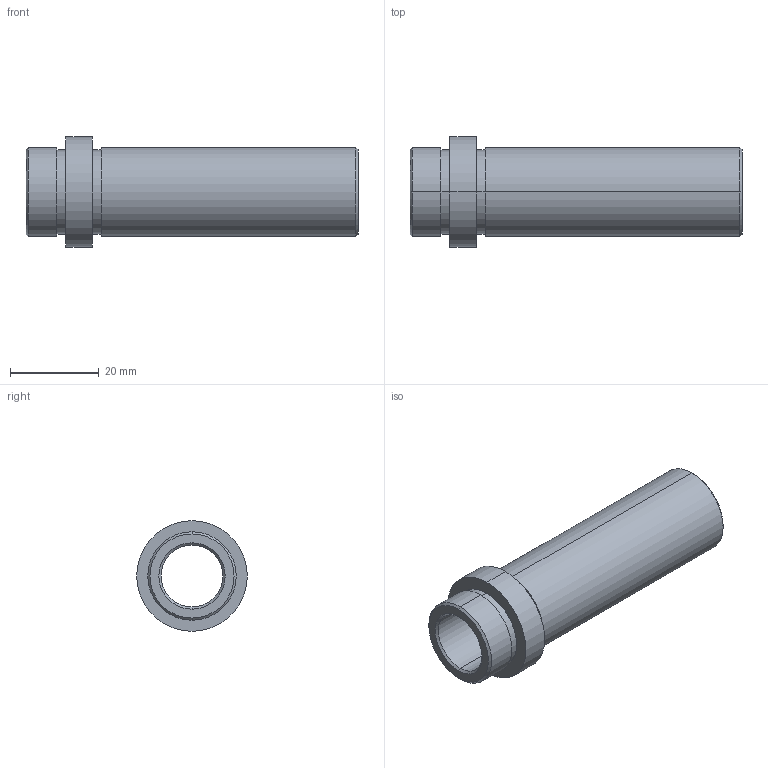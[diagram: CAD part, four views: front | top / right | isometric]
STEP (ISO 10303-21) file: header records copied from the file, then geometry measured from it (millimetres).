
FILE_DESCRIPTION( ( 'STEP AP203' ), '1' );
FILE_NAME( 'D:/Delta 3 D/D21/D21 - 14x66.step', '2002-12-31T22:26:02', ( ' ' ), ( ' ' ), 'XStep 1.0', ' ', ' ' );
FILE_SCHEMA( ( 'CONFIG_CONTROL_DESIGN' ) );
Length unit declared in the file: metre
Products named in the file (1): 1
Bounding box: 75 x 25 x 25 mm (x, y, z)
Volume: 12927.7 mm3; surface area: 8826.6 mm2
Topology: 1 solids, 1 shells, 26 faces, 52 edges, 32 vertices
Faces by surface type: revolution 20, bspline 6
Entity records: 773 total; most frequent: CARTESIAN_POINT 169, DIRECTION 106, ORIENTED_EDGE 104, EDGE_CURVE 52, AXIS2_PLACEMENT_3D 33, EDGE_LOOP 32, VERTEX_POINT 32, CIRCLE 32
